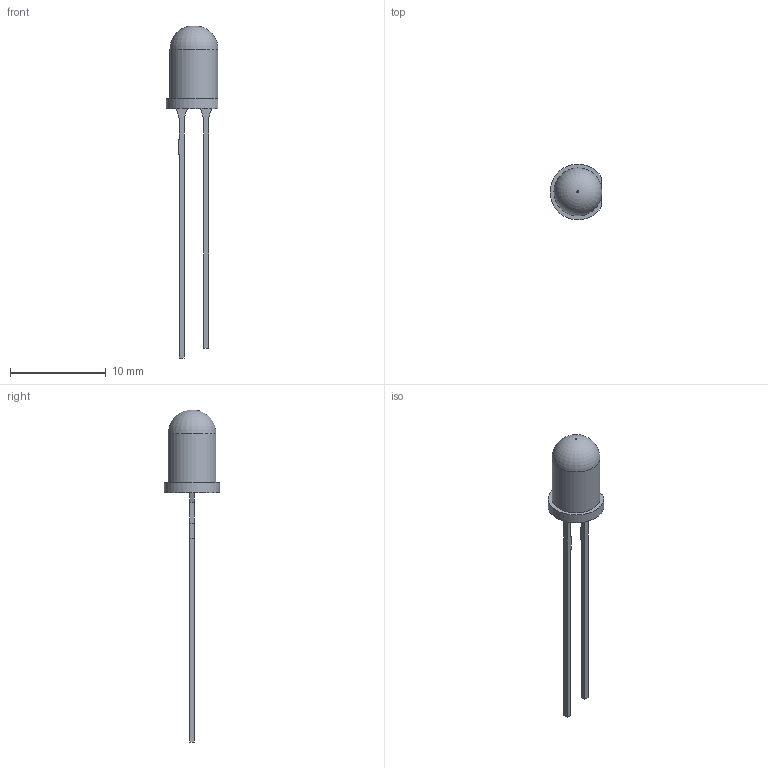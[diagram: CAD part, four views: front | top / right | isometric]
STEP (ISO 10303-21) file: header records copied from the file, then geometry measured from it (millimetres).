
FILE_DESCRIPTION(/* description */ ('STEP AP242','CAx-IF Rec.Pracs.---Representation and Presentation of Product Manufacturing Information (PMI)---4.0---2014-10-13','CAx-IF Rec.Pracs.---3D Tessellated Geometry---0.4---2014-09-14','2;1'),/* implementation_level */ '2;1');
FILE_NAME(/* name */ '62b6262538b33e58a8b8d622',/* time_stamp */ '2022-06-24T21:01:25+00:00',/* author */ (''),/* organization */ (''),/* preprocessor_version */ 'ST-DEVELOPER v18.102',/* originating_system */ ' ',/* authorisation */ ' ');
FILE_SCHEMA (('AP242_MANAGED_MODEL_BASED_3D_ENGINEERING_MIM_LF { 1 0 10303 442 1 1 4 }'));
Length unit declared in the file: metre
Products named in the file (4): QBL8IW15C-CW-2897; Lens; Lead2; Lead1
Assembly tree (3 placements, depth 2):
  QBL8IW15C-CW-2897
    Lens
    Lead2
    Lead1
Bounding box: 5.4 x 5.8 x 34.6 mm (x, y, z)
Volume: 172.8 mm3; surface area: 276.1 mm2
Topology: 3 solids, 3 shells, 96 faces, 249 edges, 165 vertices
Faces by surface type: plane 64, bspline 29, cylinder 2, torus 1
Full cylindrical faces by diameter (mm): 5 x1
Entity records: 3076 total; most frequent: CARTESIAN_POINT 837, ORIENTED_EDGE 494, DIRECTION 334, EDGE_CURVE 247, LINE 182, VECTOR 182, VERTEX_POINT 165, EDGE_LOOP 104
